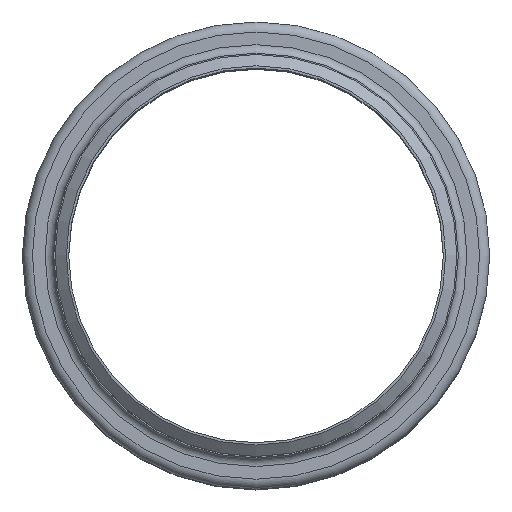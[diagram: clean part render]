
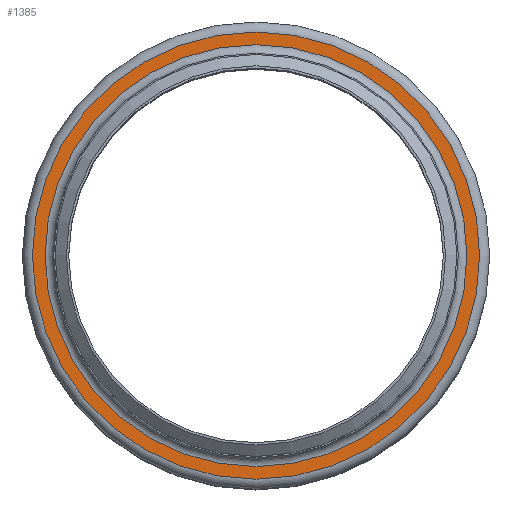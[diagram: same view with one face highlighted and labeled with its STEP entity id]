
A CAD part, top view. The second image highlights one B-rep face of the part: STEP entity #1385.
In plain terms, the highlighted planar face has unit normal (0, 0, 1).
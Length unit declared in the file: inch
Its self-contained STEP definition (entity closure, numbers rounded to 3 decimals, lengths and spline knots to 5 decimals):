
#155=FACE_BOUND('',#416,.T.);
#256=FACE_OUTER_BOUND('',#415,.T.);
#415=EDGE_LOOP('',(#1168));
#416=EDGE_LOOP('',(#1169));
#584=CIRCLE('',#1684,5.643);
#585=CIRCLE('',#1686,5.982);
#703=VERTEX_POINT('',#2631);
#704=VERTEX_POINT('',#2635);
#862=EDGE_CURVE('',#703,#703,#584,.T.);
#863=EDGE_CURVE('',#704,#704,#585,.T.);
#1168=ORIENTED_EDGE('',*,*,#863,.F.);
#1169=ORIENTED_EDGE('',*,*,#862,.T.);
#1284=PLANE('',#1685);
#1385=ADVANCED_FACE('',(#256,#155),#1284,.T.);
#1684=AXIS2_PLACEMENT_3D('',#2633,#2197,#2198);
#1685=AXIS2_PLACEMENT_3D('',#2634,#2199,#2200);
#1686=AXIS2_PLACEMENT_3D('',#2636,#2201,#2202);
#2197=DIRECTION('center_axis',(0.,0.,-1.));
#2198=DIRECTION('ref_axis',(1.,0.,0.));
#2199=DIRECTION('center_axis',(0.,0.,1.));
#2200=DIRECTION('ref_axis',(1.,0.,0.));
#2201=DIRECTION('center_axis',(0.,0.,-1.));
#2202=DIRECTION('ref_axis',(1.,0.,0.));
#2631=CARTESIAN_POINT('',(5.643,0.,-0.232));
#2633=CARTESIAN_POINT('Origin',(0.,0.,-0.232));
#2634=CARTESIAN_POINT('Origin',(0.,5.982,-0.232));
#2635=CARTESIAN_POINT('',(5.982,0.,-0.232));
#2636=CARTESIAN_POINT('Origin',(0.,0.,-0.232));
